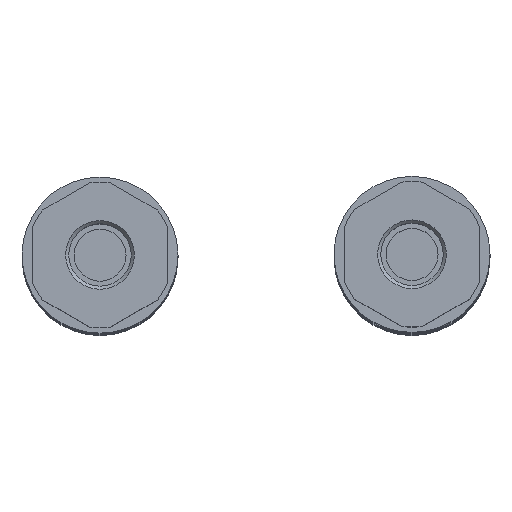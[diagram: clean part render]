
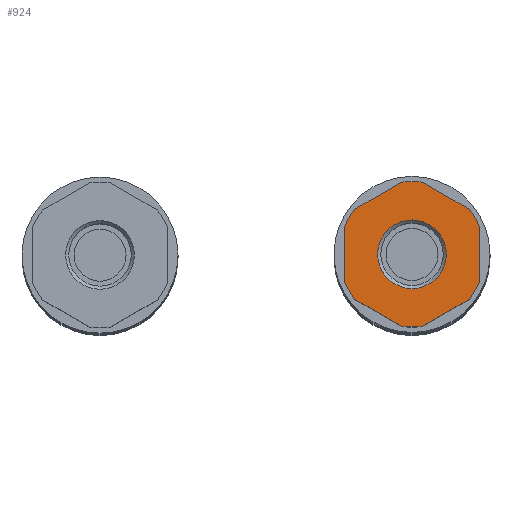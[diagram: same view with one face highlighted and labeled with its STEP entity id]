
A CAD part, top view. The second image highlights one B-rep face of the part: STEP entity #924.
In plain terms, the highlighted planar face has unit normal (0, 0, 1).
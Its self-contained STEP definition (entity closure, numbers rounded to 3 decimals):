
#924=ADVANCED_FACE('',(#1838,#1839),#1840,.T.);
#1838=FACE_BOUND('',#2700,.T.);
#1839=FACE_OUTER_BOUND('',#2701,.T.);
#1840=PLANE('',#2702);
#2700=EDGE_LOOP('',(#4464));
#2701=EDGE_LOOP('',(#4465,#4466,#4467,#4468,#4469,#4470,#4471,#4472,#4473,#4474,#4475,#4476));
#2702=AXIS2_PLACEMENT_3D('',#4477,#4478,#4479);
#4464=ORIENTED_EDGE('',*,*,#5134,.T.);
#4465=ORIENTED_EDGE('',*,*,#5127,.T.);
#4466=ORIENTED_EDGE('',*,*,#5109,.T.);
#4467=ORIENTED_EDGE('',*,*,#5153,.T.);
#4468=ORIENTED_EDGE('',*,*,#5159,.T.);
#4469=ORIENTED_EDGE('',*,*,#5137,.T.);
#4470=ORIENTED_EDGE('',*,*,#5156,.T.);
#4471=ORIENTED_EDGE('',*,*,#5141,.T.);
#4472=ORIENTED_EDGE('',*,*,#5098,.T.);
#4473=ORIENTED_EDGE('',*,*,#5145,.T.);
#4474=ORIENTED_EDGE('',*,*,#5088,.T.);
#4475=ORIENTED_EDGE('',*,*,#5148,.T.);
#4476=ORIENTED_EDGE('',*,*,#5093,.T.);
#4477=CARTESIAN_POINT('',(0.,0.0,60.0));
#4478=DIRECTION('',(0.0,0.0,1.0));
#4479=DIRECTION('',(1.0,0.0,0.0));
#5088=EDGE_CURVE('',#6021,#6026,#6028,.T.);
#5093=EDGE_CURVE('',#6030,#6035,#6037,.T.);
#5098=EDGE_CURVE('',#6039,#6044,#6046,.T.);
#5109=EDGE_CURVE('',#6057,#6062,#6064,.T.);
#5127=EDGE_CURVE('',#6035,#6057,#6091,.T.);
#5134=EDGE_CURVE('',#6099,#6099,#6100,.F.);
#5137=EDGE_CURVE('',#6105,#6102,#6106,.T.);
#5141=EDGE_CURVE('',#6111,#6039,#6112,.T.);
#5145=EDGE_CURVE('',#6044,#6021,#6117,.T.);
#5148=EDGE_CURVE('',#6026,#6030,#6120,.T.);
#5153=EDGE_CURVE('',#6062,#6125,#6127,.T.);
#5156=EDGE_CURVE('',#6102,#6111,#6130,.T.);
#5159=EDGE_CURVE('',#6125,#6105,#6133,.T.);
#6021=VERTEX_POINT('',#7165);
#6026=VERTEX_POINT('',#7172);
#6028=LINE('',#7175,#7176);
#6030=VERTEX_POINT('',#7178);
#6035=VERTEX_POINT('',#7185);
#6037=LINE('',#7188,#7189);
#6039=VERTEX_POINT('',#7191);
#6044=VERTEX_POINT('',#7198);
#6046=LINE('',#7201,#7202);
#6057=VERTEX_POINT('',#7213);
#6062=VERTEX_POINT('',#7220);
#6064=LINE('',#7223,#7224);
#6091=CIRCLE('',#7251,7.0);
#6099=VERTEX_POINT('',#7259);
#6100=CIRCLE('',#7260,3.3);
#6102=VERTEX_POINT('',#7262);
#6105=VERTEX_POINT('',#7266);
#6106=CIRCLE('',#7267,7.0);
#6111=VERTEX_POINT('',#7273);
#6112=CIRCLE('',#7274,7.0);
#6117=CIRCLE('',#7280,7.0);
#6120=CIRCLE('',#7283,7.0);
#6125=VERTEX_POINT('',#7288);
#6127=CIRCLE('',#7291,7.0);
#6130=LINE('',#7295,#7296);
#6133=LINE('',#7300,#7301);
#7165=CARTESIAN_POINT('',(6.5,-2.598,60.0));
#7172=CARTESIAN_POINT('',(6.5,2.598,60.0));
#7175=CARTESIAN_POINT('',(6.5,-3.889,60.0));
#7176=VECTOR('',#8069,1.0);
#7178=CARTESIAN_POINT('',(5.5,4.33,60.0));
#7185=CARTESIAN_POINT('',(1.,6.928,60.0));
#7188=CARTESIAN_POINT('',(6.618,3.685,60.0));
#7189=VECTOR('',#8073,1.0);
#7191=CARTESIAN_POINT('',(1.,-6.928,60.0));
#7198=CARTESIAN_POINT('',(5.5,-4.33,60.0));
#7201=CARTESIAN_POINT('',(-0.118,-7.574,60.0));
#7202=VECTOR('',#8077,1.0);
#7213=CARTESIAN_POINT('',(-1.,6.928,60.0));
#7220=CARTESIAN_POINT('',(-5.5,4.33,60.0));
#7223=CARTESIAN_POINT('',(0.118,7.574,60.0));
#7224=VECTOR('',#8090,1.0);
#7251=AXIS2_PLACEMENT_3D('',#8118,#8119,#8120);
#7259=CARTESIAN_POINT('',(3.3,0.,60.0));
#7260=AXIS2_PLACEMENT_3D('',#8127,#8128,#8129);
#7262=CARTESIAN_POINT('',(-5.5,-4.33,60.0));
#7266=CARTESIAN_POINT('',(-6.5,-2.598,60.0));
#7267=AXIS2_PLACEMENT_3D('',#8131,#8132,#8133);
#7273=CARTESIAN_POINT('',(-1.,-6.928,60.0));
#7274=AXIS2_PLACEMENT_3D('',#8138,#8139,#8140);
#7280=AXIS2_PLACEMENT_3D('',#8145,#8146,#8147);
#7283=AXIS2_PLACEMENT_3D('',#8151,#8152,#8153);
#7288=CARTESIAN_POINT('',(-6.5,2.598,60.0));
#7291=AXIS2_PLACEMENT_3D('',#8161,#8162,#8163);
#7295=CARTESIAN_POINT('',(-6.618,-3.685,60.0));
#7296=VECTOR('',#8165,1.0);
#7300=CARTESIAN_POINT('',(-6.5,3.889,60.0));
#7301=VECTOR('',#8167,1.0);
#8069=DIRECTION('',(0.0,1.0,0.0));
#8073=DIRECTION('',(-0.866,0.5,0.0));
#8077=DIRECTION('',(0.866,0.5,0.0));
#8090=DIRECTION('',(-0.866,-0.5,0.0));
#8118=CARTESIAN_POINT('',(0.,0.0,60.0));
#8119=DIRECTION('',(0.0,0.0,1.0));
#8120=DIRECTION('',(1.0,0.0,0.0));
#8127=CARTESIAN_POINT('',(0.,0.,60.0));
#8128=DIRECTION('',(0.0,0.0,1.0));
#8129=DIRECTION('',(1.0,0.0,0.0));
#8131=CARTESIAN_POINT('',(0.,0.0,60.0));
#8132=DIRECTION('',(0.0,0.0,1.0));
#8133=DIRECTION('',(1.0,0.0,0.0));
#8138=CARTESIAN_POINT('',(0.,0.0,60.0));
#8139=DIRECTION('',(0.0,0.0,1.0));
#8140=DIRECTION('',(1.0,0.0,0.0));
#8145=CARTESIAN_POINT('',(0.,0.0,60.0));
#8146=DIRECTION('',(0.0,0.0,1.0));
#8147=DIRECTION('',(1.0,0.0,0.0));
#8151=CARTESIAN_POINT('',(0.,0.0,60.0));
#8152=DIRECTION('',(0.0,0.0,1.0));
#8153=DIRECTION('',(1.0,0.0,0.0));
#8161=CARTESIAN_POINT('',(0.,0.0,60.0));
#8162=DIRECTION('',(0.0,0.0,1.0));
#8163=DIRECTION('',(1.0,0.0,0.0));
#8165=DIRECTION('',(0.866,-0.5,0.0));
#8167=DIRECTION('',(0.0,-1.0,0.0));
